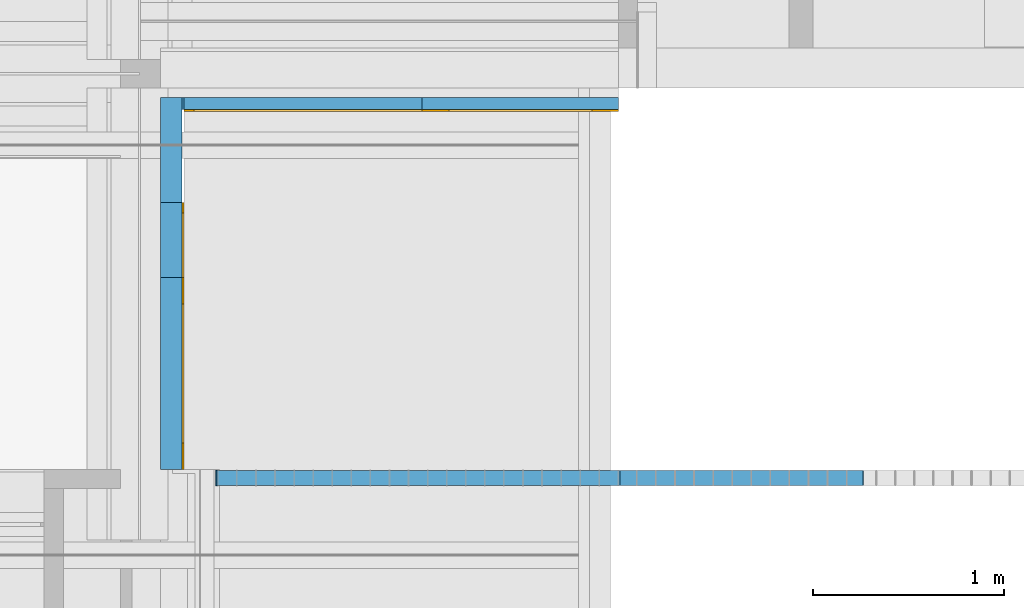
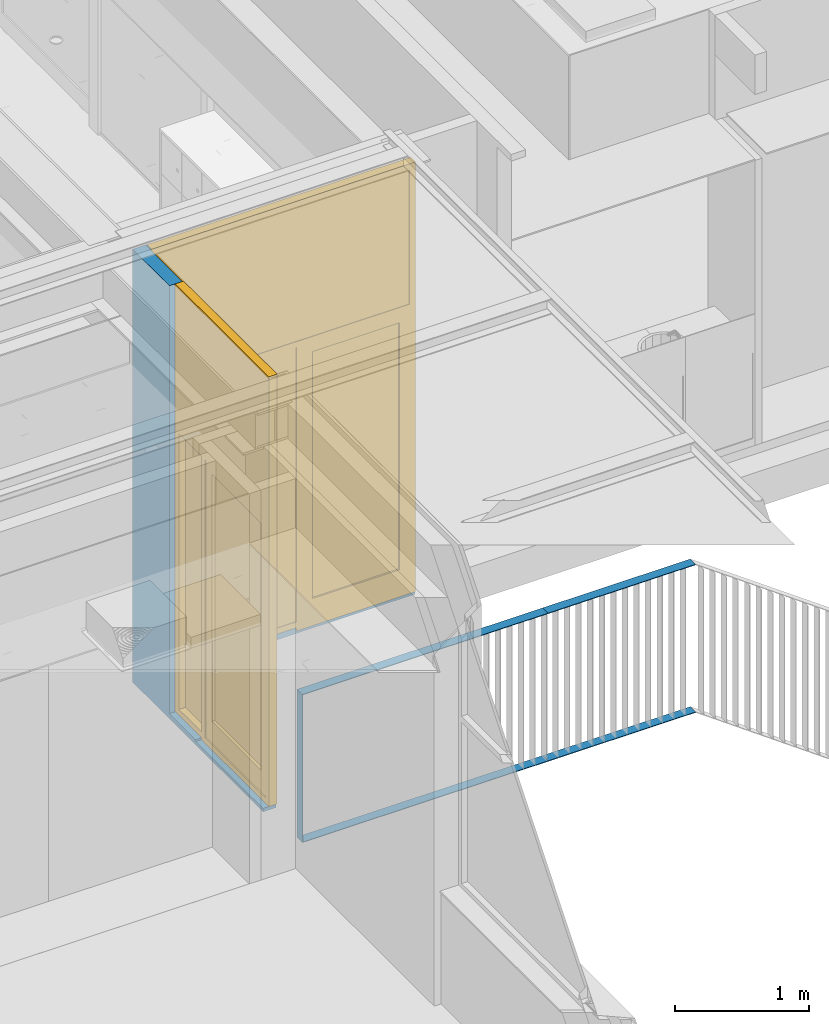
# One storey, part 16 of 260: 7 members, 2 doors, 2 openings, 1 element without a shape of its own.
"""IFC2X3 building model written with IfcOpenShell, lengths in millimetres."""

from ifc_helpers import new_model, entity, si_unit, converted_unit, derived_unit, money_unit, direction, frame, origin_with_axes, place, context, subcontext, project, spatial, open_shell, faceted_brep, surface_model, material, type_object, element, fill, aggregate, save


model = new_model("IFC2X3")

# Units and contexts
model_context = context("Model", 3, precision=0.01, world=origin_with_axes(), true_north=direction((0.0, 1.0)))
plan_context = context("Plan", 3, precision=0.01, world=origin_with_axes(), true_north=direction((0.0, 1.0)))
body_context = subcontext(model_context, "Body", "Model", "MODEL_VIEW")
ifc_project = project(units=[si_unit("LENGTHUNIT", "METRE", prefix="MILLI"), si_unit("AREAUNIT", "SQUARE_METRE"), si_unit("VOLUMEUNIT", "CUBIC_METRE"), converted_unit("PLANEANGLEUNIT", "DEGREE", entity("IfcPlaneAngleMeasure", 0.0174532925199), si_unit("PLANEANGLEUNIT", "RADIAN"), dimensions=[0, 0, 0, 0, 0, 0, 0]), money_unit("EUR"), converted_unit("TIMEUNIT", "Year", entity("IfcTimeMeasure", 31556926.0), si_unit("TIMEUNIT", "SECOND"), dimensions=[0, 0, 1, 0, 0, 0, 0]), si_unit("MASSUNIT", "GRAM", prefix="KILO"), si_unit("THERMODYNAMICTEMPERATUREUNIT", "DEGREE_CELSIUS"), si_unit("LUMINOUSINTENSITYUNIT", "LUMEN"), si_unit("ENERGYUNIT", "JOULE", prefix="MEGA"), derived_unit("THERMALCONDUCTANCEUNIT", [(si_unit("POWERUNIT", "WATT"), 1), (si_unit("LENGTHUNIT", "METRE"), -1), (si_unit("THERMODYNAMICTEMPERATUREUNIT", "KELVIN"), -1)]), derived_unit("SPECIFICHEATCAPACITYUNIT", [(si_unit("ENERGYUNIT", "JOULE"), 1), (si_unit("MASSUNIT", "GRAM", prefix="KILO"), -1), (si_unit("THERMODYNAMICTEMPERATUREUNIT", "KELVIN"), -1)]), derived_unit("MASSDENSITYUNIT", [(si_unit("MASSUNIT", "GRAM", prefix="KILO"), 1), (si_unit("VOLUMEUNIT", "CUBIC_METRE"), -1)])], contexts=[model_context, plan_context])

# Site, building, storey
site_placement = place(None, origin_with_axes())
site = spatial("IfcSite", under=ifc_project, at=site_placement, Name="Site", CompositionType="ELEMENT")
building_placement = place(site_placement, origin_with_axes())
building = spatial("IfcBuilding", under=site, at=building_placement, Name="Naam gebouw", CompositionType="ELEMENT")
storey_placement = place(building_placement, frame((0.0, 0.0, 3960.0), z_axis=(0.0, 0.0, 1.0), x_axis=(1.0, 0.0, 0.0)))
storey = spatial("IfcBuildingStorey", under=building, at=storey_placement, Name="verdieping", CompositionType="ELEMENT", Elevation=3960.0)

# Railing, members
railing_type = type_object("IfcRailingType", Name="Railing Type", PredefinedType="NOTDEFINED")
railing_placement = place(storey_placement, frame((45003.0750126, 9730.00004155, -3819.75532512), z_axis=(0.0, 0.0, 1.0), x_axis=(1.0, 0.0, 0.0)))
railing = element("IfcRailing", 1, at=railing_placement, inside=storey, type_object=railing_type, Name="_Reling-x", PredefinedType="NOTDEFINED")
ifc_material_1 = material(Name="Metaal - Aluminium")
member_type_1 = type_object("IfcMemberType", Name="IfcMember", PredefinedType="USERDEFINED")
member_1_placement = place(railing_placement, origin_with_axes())
member_1 = element("IfcMember", 2, at=member_1_placement, type_object=member_type_1, material=ifc_material_1, Name="_", context=body_context, shape_type="Brep", body=[
    faceted_brep([(-58.0749468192, 314.999958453, 4769.75532512), (-52.0749468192, 314.999958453, 4763.75532512), (-52.0749468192, 314.999958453, 3419.75532512), (-58.0749468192, 314.999958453, 3419.75532512), (-58.0749468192, 234.999958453, 4769.75532512), (-52.0749468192, 234.999958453, 4763.75532512), (-52.0749468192, 234.999958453, 3419.75532512), (-58.0749468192, 234.999958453, 3419.75532512)], [[[0, 1, 2, 3]], [[0, 4, 5, 1]], [[1, 5, 6, 2]], [[3, 2, 6, 7]], [[4, 0, 3, 7]], [[5, 4, 7, 6]]]),
])
member_2_placement = place(railing_placement, frame((1001.92502535, 274.999958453, 4729.30782829), z_axis=(0.0, 0.0, 1.0), x_axis=(1.0, 0.0, 0.0)))
member_2 = element("IfcMember", 3, at=member_2_placement, type_object=member_type_1, material=ifc_material_1, Name="_", context=body_context, shape_type="Brep", body=[
    faceted_brep([(-1059.99997217, -40.0, 40.4474968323), (-1053.99997217, -40.0, 34.4474968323), (1059.99997217, -40.0, 34.4474968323), (1059.99997217, -40.0, 40.4474968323), (-1059.99997217, 40.0, 40.4474968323), (-1053.99997217, 40.0, 34.4474968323), (1059.99997217, 40.0, 34.4474968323), (1059.99997217, 40.0, 40.4474968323)], [[[0, 1, 2, 3]], [[0, 4, 5, 1]], [[1, 5, 6, 2]], [[3, 2, 6, 7]], [[4, 0, 3, 7]], [[5, 4, 7, 6]]]),
])
ifc_material_2 = material(Name="Metaal - RVS")
member_3_placement = place(railing_placement, frame((1001.92502535, 274.999958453, 3379.64298288), z_axis=(0.0, 0.0, 1.0), x_axis=(1.0, 0.0, 0.0)))
member_3 = element("IfcMember", 4, at=member_3_placement, type_object=member_type_1, material=ifc_material_2, Name="_Regel-x", context=body_context, shape_type="Brep", body=[
    faceted_brep([(-1059.99997217, -40.0, 43.1123422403), (-1059.99997217, -40.0, 37.1123422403), (1059.99997217, -40.0, 37.1123422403), (1059.99997217, -40.0, 43.1123422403), (-1059.99997217, 40.0, 43.1123422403), (-1059.99997217, 40.0, 37.1123422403), (1059.99997217, 40.0, 37.1123422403), (1059.99997217, 40.0, 43.1123422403)], [[[0, 1, 2, 3]], [[0, 4, 5, 1]], [[1, 5, 6, 2]], [[3, 2, 6, 7]], [[4, 0, 3, 7]], [[5, 4, 7, 6]]]),
])
member_4_placement = place(railing_placement, frame((2699.03930402, 274.999958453, 4729.30782829), z_axis=(0.0, 0.0, 1.0), x_axis=(1.0, 0.0, 0.0)))
member_4 = element("IfcMember", 5, at=member_4_placement, type_object=member_type_1, material=ifc_material_1, Name="_", context=body_context, shape_type="Brep", body=[
    faceted_brep([(-637.114306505, -40.0, 40.4474968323), (-637.114306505, -40.0, 34.4474968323), (635.179025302, -39.9999999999, 34.4474968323), (637.114306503, -40.0, 40.4474968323), (-637.114306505, 40.0, 40.4474968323), (-637.114306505, 40.0, 34.4474968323), (635.179025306, 40.0000000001, 34.4474968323), (637.114306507, 40.0, 40.4474968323)], [[[0, 1, 2, 3]], [[0, 4, 5, 1]], [[1, 5, 6, 2]], [[3, 2, 6, 7]], [[4, 0, 3, 7]], [[5, 4, 7, 6]]]),
])
member_5_placement = place(railing_placement, frame((2699.03930402, 274.999958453, 3379.64298288), z_axis=(0.0, 0.0, 1.0), x_axis=(1.0, 0.0, 0.0)))
member_5 = element("IfcMember", 6, at=member_5_placement, type_object=member_type_1, material=ifc_material_2, Name="_Regel-x", context=body_context, shape_type="Brep", body=[
    faceted_brep([(-637.114306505, -40.0, 43.1123422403), (-637.114306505, -40.0, 37.1123422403), (636.146665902, -39.9999999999, 37.1123422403), (638.081947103, -40.0000000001, 43.1123422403), (-637.114306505, 40.0, 43.1123422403), (-637.114306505, 40.0, 37.1123422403), (636.146665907, 40.0000000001, 37.1123422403), (638.081947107, 39.9999999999, 43.1123422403)], [[[0, 1, 2, 3]], [[0, 4, 5, 1]], [[1, 5, 6, 2]], [[3, 2, 6, 7]], [[4, 0, 3, 7]], [[5, 4, 7, 6]]]),
])
aggregate(railing, [member_1, member_2, member_3, member_4, member_5])

# Member, opening, door
ifc_material_3 = material(Name="31 pui/kozijn")
member_type_2 = type_object("IfcMemberType", Name="31 pui/kozijn 62", PredefinedType="MEMBER")
member_6_placement = place(storey_placement, frame((47055.0, 12000.0000337, -70.0), z_axis=(0.0, 0.0, 1.0), x_axis=(-1.0, 0.0, 0.0)))
member_6 = element("IfcMember", 7, at=member_6_placement, inside=storey, type_object=member_type_2, material=ifc_material_3, Name="21_31 buitenkozijn pui", ObjectType="MEMBER", context=body_context, shape_type="Brep", body=[
    faceted_brep([(1028.0, 0.0, 60.0), (1028.0, 0.0, 30.0), (0.0, 0.0, 30.0), (0.0, 0.0, 0.0), (2288.00003646, 0.0, 0.0), (2288.00003646, 0.0, 3950.0), (2278.00001134, 0.0, 3950.0), (2278.00001134, 0.0, 60.0), (1028.0, 62.0, 60.0), (1028.0, 62.0, 30.0), (0.0, 62.0, 30.0), (0.0, 62.0, 0.0), (2288.00001134, 62.0, 0.0), (2288.00001134, 62.0, 3950.0), (2278.00001134, 62.0, 3950.0), (2278.00001134, 62.0, 60.0)], [[[0, 1, 2, 3, 4, 5, 6, 7]], [[1, 0, 8, 9]], [[10, 2, 1, 9]], [[2, 10, 11, 3]], [[4, 3, 11, 12]], [[12, 13, 5, 4]], [[14, 6, 5, 13]], [[7, 6, 14, 15]], [[0, 7, 15, 8]], [[15, 14, 13, 12, 11, 10, 9, 8]]]),
])
opening_1_placement = place(member_6_placement, frame((1139.00000567, 0.0, 30.0), z_axis=(0.0, 0.0, 1.0), x_axis=(1.0, 0.0, 0.0)))
opening_1 = element("IfcOpeningElement", 8, at=opening_1_placement, cuts=member_6, Name="32_merk-BN", context=body_context, shape_type="Brep", body=[
    faceted_brep([(-1139.00000567, -62.0, 0.0), (-1139.00000567, -62.0, 3920.0), (-1139.00000567, 134.0, 3920.0), (-1139.00000567, 134.0, 0.0), (-111.000029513, -62.0, 0.0), (-111.000029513, -62.0, 30.0000143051), (1138.99998241, -62.0, 30.0000143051), (1138.99998241, -62.0, 3920.0), (1138.99998241, 134.0, 3920.0), (1138.99998241, 134.0, 30.0000143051), (-111.000029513, 134.0, 30.0000143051), (-111.000029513, 134.0, 0.0)], [[[0, 1, 2, 3]], [[0, 4, 5, 6, 7, 1]], [[1, 7, 8, 2]], [[3, 2, 8, 9, 10, 11]], [[4, 0, 3, 11]], [[5, 4, 11, 10]], [[6, 5, 10, 9]], [[7, 6, 9, 8]]]),
])
door_style_1 = type_object("IfcDoorStyle", Name="D1 bl zl1-a 25", ConstructionType="NOTDEFINED", OperationType="SINGLE_SWING_RIGHT", ParameterTakesPrecedence=False, Sizeable=False)
door_1_placement = place(opening_1_placement, frame((-1139.00000567, 0.0, 0.0), z_axis=(0.0, 0.0, 1.0), x_axis=(1.0, 0.0, 0.0)))
door_1 = element("IfcDoor", 9, at=door_1_placement, inside=storey, type_object=door_style_1, Name="32_merk-BN", ObjectType="DOOR", OverallHeight=3920.0, OverallWidth=2278.0, context=body_context, shape_type="SurfaceModel", body=[
    faceted_brep([(39.0, 32.0, 48.0), (54.0, 32.0, 48.0), (54.0, 0.0, 48.0), (974.0, 0.0, 48.0), (974.0, 32.0, 48.0), (989.0, 32.0, 48.0), (989.0, 72.0, 48.0), (39.0, 72.0, 48.0), (39.0, 32.0, 0.0), (54.0, 32.0, 0.0), (54.0, 0.0, 0.0), (974.0, 0.0, 0.0), (974.0, 32.0, 0.0), (989.0, 32.0, 0.0), (989.0, 72.0, 0.0), (39.0, 72.0, 0.0)], [[[0, 1, 2, 3, 4, 5, 6, 7]], [[1, 0, 8, 9]], [[10, 2, 1, 9]], [[2, 10, 11, 3]], [[3, 11, 12, 4]], [[5, 4, 12, 13]], [[13, 14, 6, 5]], [[15, 7, 6, 14]], [[8, 0, 7, 15]], [[9, 8, 15, 14, 13, 12, 11, 10]]]),
    faceted_brep([(54.0, 32.0, 2601.0), (54.0, 72.0, 2601.0), (54.0, 72.0, 2640.0), (54.0, 0.0, 2640.0), (54.0, 0.0, 2586.0), (54.0, 0.0, 0.0), (54.0, 32.0, 0.0), (39.0, 32.0, 2601.0), (39.0, 72.0, 2601.0), (39.0, 72.0, 0.0), (0.0, 72.0, 0.0), (0.0, 72.0, 3866.0), (54.0, 72.0, 3866.0), (54.0, 0.0, 3866.0), (0.0, 0.0, 3866.0), (0.0, 0.0, 0.0), (39.0, 32.0, 0.0)], [[[0, 1, 2, 3, 4, 5, 6]], [[1, 0, 7, 8]], [[8, 9, 10, 11, 12, 2, 1]], [[12, 13, 3, 2]], [[3, 13, 14, 15, 5, 4]], [[16, 6, 5, 15, 10, 9]], [[0, 6, 16, 7]], [[9, 8, 7, 16]], [[10, 15, 14, 11]], [[11, 14, 13, 12]]]),
    faceted_brep([(2278.00001134, 72.0, 30.0), (2278.00001134, 72.0, 3866.0), (2278.00001134, 0.0, 3866.0), (2278.00001134, 0.0, 30.0), (2224.00001134, 72.0, 30.0), (2224.00001134, 72.0, 84.0), (2224.00001134, 72.0, 2586.0), (2224.00001134, 72.0, 2640.0), (2224.00001134, 72.0, 3866.0), (2224.00001134, 0.0, 3866.0), (2224.00001134, 0.0, 2640.0), (2224.00001134, 0.0, 2586.0), (2224.00001134, 0.0, 84.0), (2224.00001134, 0.0, 30.0)], [[[0, 1, 2, 3]], [[0, 4, 5, 6, 7, 8, 1]], [[1, 8, 9, 2]], [[3, 2, 9, 10, 11, 12, 13]], [[4, 0, 3, 13]], [[5, 4, 13, 12]], [[6, 5, 12, 11]], [[7, 6, 11, 10]], [[8, 7, 10, 9]]]),
    faceted_brep([(989.0, 32.0, 2586.0), (974.0, 32.0, 2586.0), (974.0, 0.0, 2586.0), (1028.0, 0.0, 2586.0), (1028.0, 72.0, 2586.0), (989.0, 72.0, 2586.0), (989.0, 32.0, 0.0), (974.0, 32.0, 0.0), (974.0, 0.0, 0.0), (1028.0, 0.0, 0.0), (1028.0, 0.0, 30.0), (1028.0, 0.0, 84.0), (1028.0, 72.0, 84.0), (989.0, 72.0, 0.0), (1028.0, 72.0, 30.0), (1028.0, 72.0, 0.0)], [[[0, 1, 2, 3, 4, 5]], [[1, 0, 6, 7]], [[1, 7, 8, 2]], [[9, 10, 11, 3, 2, 8]], [[4, 3, 11, 12]], [[13, 5, 4, 12, 14, 15]], [[0, 5, 13, 6]], [[6, 13, 15, 9, 8, 7]], [[14, 10, 9, 15]], [[12, 11, 10, 14]]]),
    faceted_brep([(1028.0, 72.0, 84.0), (1028.0, 72.0, 30.0), (1028.0, 0.0, 30.0), (1028.0, 0.0, 84.0), (2224.00001134, 72.0, 84.0), (2224.00001134, 72.0, 30.0), (2224.00001134, 0.0, 30.0), (2224.00001134, 0.0, 84.0)], [[[0, 1, 2, 3]], [[0, 4, 5, 1]], [[1, 5, 6, 2]], [[3, 2, 6, 7]], [[4, 0, 3, 7]], [[5, 4, 7, 6]]]),
    faceted_brep([(0.0, 72.0, 3920.0), (0.0, 72.0, 3866.0), (0.0, 0.0, 3866.0), (0.0, 0.0, 3920.0), (2278.00001134, 72.0, 3920.0), (2278.00001134, 72.0, 3866.0), (2224.00001134, 72.0, 3866.0), (54.0, 72.0, 3866.0), (54.0, 0.0, 3866.0), (2224.00001134, 0.0, 3866.0), (2278.00001134, 0.0, 3866.0), (2278.00001134, 0.0, 3920.0)], [[[0, 1, 2, 3]], [[0, 4, 5, 6, 7, 1]], [[1, 7, 8, 2]], [[3, 2, 8, 9, 10, 11]], [[4, 0, 3, 11]], [[5, 4, 11, 10]], [[6, 5, 10, 9]], [[7, 6, 9, 8]]]),
    faceted_brep([(989.0, 72.0, 2601.0), (54.0, 72.0, 2601.0), (54.0, 72.0, 2640.0), (2224.00001134, 72.0, 2640.0), (2224.00001134, 72.0, 2586.0), (1028.0, 72.0, 2586.0), (989.0, 72.0, 2586.0), (989.0, 32.0, 2601.0), (54.0, 32.0, 2601.0), (54.0, 32.0, 2586.0), (54.0, 0.0, 2586.0), (54.0, 0.0, 2640.0), (2224.00001134, 0.0, 2640.0), (2224.00001134, 0.0, 2586.0), (1028.0, 0.0, 2586.0), (989.0, 32.0, 2586.0), (974.0, 0.0, 2586.0), (974.0, 32.0, 2586.0)], [[[0, 1, 2, 3, 4, 5, 6]], [[1, 0, 7, 8]], [[8, 9, 10, 11, 2, 1]], [[2, 11, 12, 3]], [[3, 12, 13, 4]], [[4, 13, 14, 5]], [[15, 6, 5, 14, 16, 17]], [[0, 6, 15, 7]], [[15, 17, 9, 8, 7]], [[9, 17, 16, 10]], [[13, 12, 11, 10, 16, 14]]]),
    faceted_brep([(989.0, 72.0, 248.0), (989.0, 52.0, 248.0), (889.0, 52.0, 248.0), (889.0, 72.0, 248.0), (989.0, 72.0, 2501.0), (989.0, 52.0, 2501.0), (889.0, 52.0, 2501.0), (889.0, 72.0, 2501.0)], [[[0, 1, 2, 3]], [[4, 5, 1, 0]], [[1, 5, 6, 2]], [[3, 2, 6, 7]], [[0, 3, 7, 4]], [[7, 6, 5, 4]]]),
    faceted_brep([(39.0, 72.0, 248.0), (39.0, 52.0, 248.0), (39.0, 52.0, 2501.0), (39.0, 72.0, 2501.0), (139.0, 72.0, 248.0), (139.0, 52.0, 248.0), (139.0, 52.0, 2501.0), (139.0, 72.0, 2501.0)], [[[0, 1, 2, 3]], [[4, 5, 1, 0]], [[1, 5, 6, 2]], [[3, 2, 6, 7]], [[0, 3, 7, 4]], [[7, 6, 5, 4]]]),
    faceted_brep([(989.0, 72.0, 48.0), (989.0, 52.0, 48.0), (39.0, 52.0, 48.0), (39.0, 72.0, 48.0), (989.0, 72.0, 248.0), (989.0, 52.0, 248.0), (889.0, 52.0, 248.0), (139.0, 52.0, 248.0), (39.0, 52.0, 248.0), (39.0, 72.0, 248.0), (139.0, 72.0, 248.0), (889.0, 72.0, 248.0)], [[[0, 1, 2, 3]], [[4, 5, 1, 0]], [[1, 5, 6, 7, 8, 2]], [[3, 2, 8, 9]], [[0, 3, 9, 10, 11, 4]], [[11, 6, 5, 4]], [[10, 7, 6, 11]], [[9, 8, 7, 10]]]),
    faceted_brep([(989.0, 72.0, 2601.0), (989.0, 52.0, 2601.0), (989.0, 52.0, 2501.0), (989.0, 72.0, 2501.0), (39.0, 72.0, 2601.0), (39.0, 52.0, 2601.0), (39.0, 52.0, 2501.0), (139.0, 52.0, 2501.0), (889.0, 52.0, 2501.0), (889.0, 72.0, 2501.0), (139.0, 72.0, 2501.0), (39.0, 72.0, 2501.0)], [[[0, 1, 2, 3]], [[4, 5, 1, 0]], [[1, 5, 6, 7, 8, 2]], [[3, 2, 8, 9]], [[0, 3, 9, 10, 11, 4]], [[11, 6, 5, 4]], [[10, 7, 6, 11]], [[9, 8, 7, 10]]]),
    faceted_brep([(989.0, 52.0, 248.0), (989.0, 32.0, 248.0), (889.0, 32.0, 248.0), (889.0, 52.0, 248.0), (989.0, 52.0, 2501.0), (989.0, 32.0, 2501.0), (889.0, 32.0, 2501.0), (889.0, 52.0, 2501.0)], [[[0, 1, 2, 3]], [[4, 5, 1, 0]], [[1, 5, 6, 2]], [[3, 2, 6, 7]], [[0, 3, 7, 4]], [[7, 6, 5, 4]]]),
    faceted_brep([(39.0, 52.0, 248.0), (39.0, 32.0, 248.0), (39.0, 32.0, 2501.0), (39.0, 52.0, 2501.0), (139.0, 52.0, 248.0), (139.0, 32.0, 248.0), (139.0, 32.0, 2501.0), (139.0, 52.0, 2501.0)], [[[0, 1, 2, 3]], [[4, 5, 1, 0]], [[1, 5, 6, 2]], [[3, 2, 6, 7]], [[0, 3, 7, 4]], [[7, 6, 5, 4]]]),
    faceted_brep([(989.0, 52.0, 48.0), (989.0, 32.0, 48.0), (39.0, 32.0, 48.0), (39.0, 52.0, 48.0), (989.0, 52.0, 248.0), (989.0, 32.0, 248.0), (889.0, 32.0, 248.0), (139.0, 32.0, 248.0), (39.0, 32.0, 248.0), (39.0, 52.0, 248.0), (139.0, 52.0, 248.0), (889.0, 52.0, 248.0)], [[[0, 1, 2, 3]], [[4, 5, 1, 0]], [[1, 5, 6, 7, 8, 2]], [[3, 2, 8, 9]], [[0, 3, 9, 10, 11, 4]], [[11, 6, 5, 4]], [[10, 7, 6, 11]], [[9, 8, 7, 10]]]),
    faceted_brep([(989.0, 52.0, 2601.0), (989.0, 32.0, 2601.0), (989.0, 32.0, 2501.0), (989.0, 52.0, 2501.0), (39.0, 52.0, 2601.0), (39.0, 32.0, 2601.0), (39.0, 32.0, 2501.0), (139.0, 32.0, 2501.0), (889.0, 32.0, 2501.0), (889.0, 52.0, 2501.0), (139.0, 52.0, 2501.0), (39.0, 52.0, 2501.0)], [[[0, 1, 2, 3]], [[4, 5, 1, 0]], [[1, 5, 6, 7, 8, 2]], [[3, 2, 8, 9]], [[0, 3, 9, 10, 11, 4]], [[11, 6, 5, 4]], [[10, 7, 6, 11]], [[9, 8, 7, 10]]]),
    surface_model("IfcShellBasedSurfaceModel", [(889.0, 58.0, 248.0), (139.0, 58.0, 248.0), (139.0, 58.0, 2501.0), (889.0, 58.0, 2501.0)], [open_shell([[[0, 1, 2, 3]]])]),
    surface_model("IfcShellBasedSurfaceModel", [(889.0, 46.0, 248.0), (889.0, 46.0, 2501.0), (139.0, 46.0, 2501.0), (139.0, 46.0, 248.0)], [open_shell([[[0, 1, 2, 3]]])]),
    surface_model("IfcShellBasedSurfaceModel", [(54.0, 68.0, 2640.0), (54.0, 68.0, 3866.0), (2224.00001134, 68.0, 3866.0), (2224.00001134, 68.0, 2640.0)], [open_shell([[[0, 1, 2, 3]]])]),
    surface_model("IfcShellBasedSurfaceModel", [(54.0, 56.0, 2640.0), (2224.00001134, 56.0, 2640.0), (2224.00001134, 56.0, 3866.0), (54.0, 56.0, 3866.0)], [open_shell([[[0, 1, 2, 3]]])]),
    surface_model("IfcShellBasedSurfaceModel", [(1028.0, 68.0, 84.0), (1028.0, 68.0, 2586.0), (2224.00001134, 68.0, 2586.0), (2224.00001134, 68.0, 84.0)], [open_shell([[[0, 1, 2, 3]]])]),
    surface_model("IfcShellBasedSurfaceModel", [(1028.0, 56.0, 84.0), (2224.00001134, 56.0, 84.0), (2224.00001134, 56.0, 2586.0), (1028.0, 56.0, 2586.0)], [open_shell([[[0, 1, 2, 3]]])]),
])
fill(opening_1, door_1)

member_type_3 = type_object("IfcMemberType", Name="31 pui/kozijn 112", PredefinedType="MEMBER")
member_7_placement = place(storey_placement, frame((44654.9999635, 12000.0000337, -70.0), z_axis=(0.0, 0.0, 1.0), x_axis=(4.05061524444e-07, -1.0, 0.0)))
member_7 = element("IfcMember", 10, at=member_7_placement, inside=storey, type_object=member_type_3, material=ifc_material_3, Name="21_31 buitenkozijn pui", ObjectType="MEMBER", context=body_context, shape_type="Brep", body=[
    faceted_brep([(550.000033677, 0.0, 3950.0), (550.000033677, 112.0, 3950.0), (4.53668906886e-05, 112.0, 3950.0), (0.0, 0.0, 3950.0), (550.000033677, 112.0, 47.0), (550.000033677, 0.0, 47.0), (942.000033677, 112.0, 30.0), (1950.00003368, 112.0, 30.0), (1950.00003368, 112.0, 0.0), (4.53668906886e-05, 112.0, 0.0), (942.000033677, 112.0, 47.0), (0.0, 0.0, 0.0), (1950.00003368, 0.0, 0.0), (1950.00003368, 0.0, 30.0), (942.000033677, 0.0, 30.0), (942.000033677, 0.0, 47.0)], [[[0, 1, 2, 3]], [[4, 1, 0, 5]], [[6, 7, 8, 9, 2, 1, 4, 10]], [[9, 11, 3, 2]], [[5, 0, 3, 11, 12, 13, 14, 15]], [[10, 4, 5, 15]], [[7, 6, 14, 13]], [[7, 13, 12, 8]], [[8, 12, 11, 9]], [[6, 10, 15, 14]]]),
])
opening_2_placement = place(member_7_placement, frame((1250.00003368, 0.0, 30.0), z_axis=(0.0, 0.0, 1.0), x_axis=(1.0, 0.0, 0.0)))
opening_2 = element("IfcOpeningElement", 11, at=opening_2_placement, cuts=member_7, Name="32_merk-BO", context=body_context, shape_type="Brep", body=[
    faceted_brep([(-700.0, -112.0, 16.9999964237), (-700.0, -112.0, 3920.0), (-700.0, 234.0, 3920.0), (-700.0, 234.0, 16.9999964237), (-308.0, -112.0, 16.9999964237), (-308.0, -112.0, 0.0), (700.000025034, -112.0, 0.0), (700.000025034, -112.0, 3920.0), (700.000025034, 234.0, 3920.0), (700.000025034, 234.0, 0.0), (-308.0, 234.0, 0.0), (-308.0, 234.0, 16.9999964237)], [[[0, 1, 2, 3]], [[0, 4, 5, 6, 7, 1]], [[1, 7, 8, 2]], [[3, 2, 8, 9, 10, 11]], [[4, 0, 3, 11]], [[5, 4, 11, 10]], [[6, 5, 10, 9]], [[7, 6, 9, 8]]]),
])
door_style_2 = type_object("IfcDoorStyle", Name="D1 bl zl1-b 25", ConstructionType="NOTDEFINED", OperationType="SINGLE_SWING_RIGHT", ParameterTakesPrecedence=False, Sizeable=False)
door_2_placement = place(opening_2_placement, frame((-700.0, 0.0, 0.0), z_axis=(0.0, 0.0, 1.0), x_axis=(1.0, 0.0, 0.0)))
door_2 = element("IfcDoor", 12, at=door_2_placement, inside=storey, type_object=door_style_2, Name="32_merk-BO", ObjectType="DOOR", OverallHeight=3920.0, OverallWidth=1400.0, context=body_context, shape_type="SurfaceModel", body=[
    faceted_brep([(431.0, 60.0, 48.0), (446.0, 60.0, 48.0), (446.0, 50.0, 48.0), (1346.0, 50.0, 48.0), (1346.0, 60.0, 48.0), (1361.0, 60.0, 48.0), (1361.0, 122.0, 48.0), (431.0, 122.0, 48.0), (431.0, 60.0, 0.0), (446.0, 60.0, 0.0), (446.0, 50.0, 0.0), (1346.0, 50.0, 0.0), (1346.0, 60.0, 0.0), (1361.0, 60.0, 0.0), (1361.0, 122.0, 0.0), (431.0, 122.0, 0.0)], [[[0, 1, 2, 3, 4, 5, 6, 7]], [[1, 0, 8, 9]], [[10, 2, 1, 9]], [[2, 10, 11, 3]], [[3, 11, 12, 4]], [[5, 4, 12, 13]], [[13, 14, 6, 5]], [[15, 7, 6, 14]], [[8, 0, 7, 15]], [[9, 8, 15, 14, 13, 12, 11, 10]]]),
    faceted_brep([(0.0, 122.0, 17.0), (54.0, 122.0, 17.0), (54.0, 50.0, 17.0), (0.0, 50.0, 17.0), (0.0, 122.0, 3866.0), (54.0, 122.0, 3866.0), (54.0, 122.0, 2640.0), (54.0, 122.0, 2586.0), (54.0, 122.0, 71.0), (54.0, 50.0, 71.0), (54.0, 50.0, 2586.0), (54.0, 50.0, 2640.0), (54.0, 50.0, 3866.0), (0.0, 50.0, 3866.0)], [[[0, 1, 2, 3]], [[0, 4, 5, 6, 7, 8, 1]], [[1, 8, 9, 2]], [[3, 2, 9, 10, 11, 12, 13]], [[4, 0, 3, 13]], [[5, 4, 13, 12]], [[6, 5, 12, 11]], [[7, 6, 11, 10]], [[8, 7, 10, 9]]]),
    faceted_brep([(446.0, 60.0, 0.0), (446.0, 60.0, 2586.0), (446.0, 50.0, 2586.0), (446.0, 50.0, 0.0), (431.0, 60.0, 2586.0), (431.0, 60.0, 0.0), (431.0, 122.0, 2586.0), (392.0, 122.0, 2586.0), (392.0, 50.0, 2586.0), (392.0, 50.0, 0.0), (392.0, 50.0, 71.0), (392.0, 50.0, 17.0), (392.0, 122.0, 0.0), (431.0, 122.0, 0.0), (392.0, 122.0, 17.0), (392.0, 122.0, 71.0)], [[[0, 1, 2, 3]], [[4, 1, 0, 5]], [[4, 6, 7, 8, 2, 1]], [[9, 3, 2, 8, 10, 11]], [[5, 0, 3, 9, 12, 13]], [[6, 4, 5, 13]], [[6, 13, 12, 14, 15, 7]], [[15, 10, 8, 7]], [[14, 11, 10, 15]], [[12, 9, 11, 14]]]),
    faceted_brep([(54.0, 122.0, 71.0), (54.0, 122.0, 17.0), (54.0, 50.0, 17.0), (54.0, 50.0, 71.0), (392.0, 122.0, 71.0), (392.0, 122.0, 17.0), (392.0, 50.0, 17.0), (392.0, 50.0, 71.0)], [[[0, 1, 2, 3]], [[0, 4, 5, 1]], [[1, 5, 6, 2]], [[3, 2, 6, 7]], [[4, 0, 3, 7]], [[5, 4, 7, 6]]]),
    faceted_brep([(1361.0, 122.0, 2601.0), (1346.0, 122.0, 2601.0), (1346.0, 122.0, 2640.0), (1346.0, 122.0, 3866.0), (1400.0, 122.0, 3866.0), (1400.0, 122.0, 0.0), (1361.0, 122.0, 0.0), (1361.0, 60.0, 2601.0), (1346.0, 60.0, 2601.0), (1346.0, 60.0, 0.0), (1346.0, 50.0, 0.0), (1346.0, 50.0, 2586.0), (1346.0, 50.0, 2640.0), (1346.0, 50.0, 3866.0), (1400.0, 50.0, 3866.0), (1400.0, 50.0, 0.0), (1361.0, 60.0, 0.0)], [[[0, 1, 2, 3, 4, 5, 6]], [[1, 0, 7, 8]], [[8, 9, 10, 11, 12, 2, 1]], [[2, 12, 13, 3]], [[3, 13, 14, 4]], [[4, 14, 15, 5]], [[16, 6, 5, 15, 10, 9]], [[0, 6, 16, 7]], [[16, 9, 8, 7]], [[12, 11, 10, 15, 14, 13]]]),
    faceted_brep([(0.0, 122.0, 3920.0), (0.0, 122.0, 3866.0), (0.0, 50.0, 3866.0), (0.0, 50.0, 3920.0), (1400.0, 122.0, 3920.0), (1400.0, 122.0, 3866.0), (1346.0, 122.0, 3866.0), (54.0, 122.0, 3866.0), (54.0, 50.0, 3866.0), (1346.0, 50.0, 3866.0), (1400.0, 50.0, 3866.0), (1400.0, 50.0, 3920.0)], [[[0, 1, 2, 3]], [[0, 4, 5, 6, 7, 1]], [[1, 7, 8, 2]], [[3, 2, 8, 9, 10, 11]], [[4, 0, 3, 11]], [[5, 4, 11, 10]], [[6, 5, 10, 9]], [[7, 6, 9, 8]]]),
    faceted_brep([(1346.0, 60.0, 2601.0), (1346.0, 122.0, 2601.0), (1346.0, 122.0, 2640.0), (1346.0, 50.0, 2640.0), (1346.0, 50.0, 2586.0), (1346.0, 60.0, 2586.0), (431.0, 60.0, 2601.0), (431.0, 122.0, 2601.0), (431.0, 122.0, 2586.0), (392.0, 122.0, 2586.0), (54.0, 122.0, 2586.0), (54.0, 122.0, 2640.0), (54.0, 50.0, 2640.0), (446.0, 50.0, 2586.0), (54.0, 50.0, 2586.0), (392.0, 50.0, 2586.0), (446.0, 60.0, 2586.0), (431.0, 60.0, 2586.0)], [[[0, 1, 2, 3, 4, 5]], [[1, 0, 6, 7]], [[7, 8, 9, 10, 11, 2, 1]], [[11, 12, 3, 2]], [[13, 4, 3, 12, 14, 15]], [[16, 5, 4, 13]], [[0, 5, 16, 17, 6]], [[8, 7, 6, 17]], [[17, 16, 13, 15, 9, 8]], [[9, 15, 14, 10]], [[10, 14, 12, 11]]]),
    faceted_brep([(1361.0, 122.0, 248.0), (1361.0, 60.0, 248.0), (1261.0, 60.0, 248.0), (1261.0, 122.0, 248.0), (1361.0, 122.0, 2501.0), (1361.0, 60.0, 2501.0), (1261.0, 60.0, 2501.0), (1261.0, 122.0, 2501.0)], [[[0, 1, 2, 3]], [[4, 5, 1, 0]], [[1, 5, 6, 2]], [[3, 2, 6, 7]], [[0, 3, 7, 4]], [[7, 6, 5, 4]]]),
    faceted_brep([(431.0, 122.0, 248.0), (431.0, 60.0, 248.0), (431.0, 60.0, 2501.0), (431.0, 122.0, 2501.0), (531.0, 122.0, 248.0), (531.0, 60.0, 248.0), (531.0, 60.0, 2501.0), (531.0, 122.0, 2501.0)], [[[0, 1, 2, 3]], [[4, 5, 1, 0]], [[1, 5, 6, 2]], [[3, 2, 6, 7]], [[0, 3, 7, 4]], [[7, 6, 5, 4]]]),
    faceted_brep([(1361.0, 122.0, 48.0), (1361.0, 60.0, 48.0), (431.0, 60.0, 48.0), (431.0, 122.0, 48.0), (1361.0, 122.0, 248.0), (1361.0, 60.0, 248.0), (1261.0, 60.0, 248.0), (531.0, 60.0, 248.0), (431.0, 60.0, 248.0), (431.0, 122.0, 248.0), (531.0, 122.0, 248.0), (1261.0, 122.0, 248.0)], [[[0, 1, 2, 3]], [[4, 5, 1, 0]], [[1, 5, 6, 7, 8, 2]], [[3, 2, 8, 9]], [[0, 3, 9, 10, 11, 4]], [[11, 6, 5, 4]], [[10, 7, 6, 11]], [[9, 8, 7, 10]]]),
    faceted_brep([(1361.0, 122.0, 2601.0), (1361.0, 60.0, 2601.0), (1361.0, 60.0, 2501.0), (1361.0, 122.0, 2501.0), (431.0, 122.0, 2601.0), (431.0, 60.0, 2601.0), (431.0, 60.0, 2501.0), (531.0, 60.0, 2501.0), (1261.0, 60.0, 2501.0), (1261.0, 122.0, 2501.0), (531.0, 122.0, 2501.0), (431.0, 122.0, 2501.0)], [[[0, 1, 2, 3]], [[4, 5, 1, 0]], [[1, 5, 6, 7, 8, 2]], [[3, 2, 8, 9]], [[0, 3, 9, 10, 11, 4]], [[11, 6, 5, 4]], [[10, 7, 6, 11]], [[9, 8, 7, 10]]]),
    surface_model("IfcShellBasedSurfaceModel", [(1261.0, 97.0, 248.0), (531.0, 97.0, 248.0), (531.0, 97.0, 2501.0), (1261.0, 97.0, 2501.0)], [open_shell([[[0, 1, 2, 3]]])]),
    surface_model("IfcShellBasedSurfaceModel", [(1261.0, 85.0, 248.0), (1261.0, 85.0, 2501.0), (531.0, 85.0, 2501.0), (531.0, 85.0, 248.0)], [open_shell([[[0, 1, 2, 3]]])]),
    faceted_brep([(54.0, 104.0, 2640.0), (1346.0, 104.0, 2640.0), (1346.0, 50.0, 2640.0), (54.0, 50.0, 2640.0), (54.0, 104.0, 3866.0), (1346.0, 104.0, 3866.0), (1346.0, 50.0, 3866.0), (54.0, 50.0, 3866.0)], [[[0, 1, 2, 3]], [[0, 4, 5, 1]], [[1, 5, 6, 2]], [[3, 2, 6, 7]], [[4, 0, 3, 7]], [[5, 4, 7, 6]]]),
    surface_model("IfcShellBasedSurfaceModel", [(54.0, 118.0, 71.0), (54.0, 118.0, 2586.0), (392.0, 118.0, 2586.0), (392.0, 118.0, 71.0)], [open_shell([[[0, 1, 2, 3]]])]),
    surface_model("IfcShellBasedSurfaceModel", [(54.0, 106.0, 71.0), (392.0, 106.0, 71.0), (392.0, 106.0, 2586.0), (54.0, 106.0, 2586.0)], [open_shell([[[0, 1, 2, 3]]])]),
])
fill(opening_2, door_2)

save(model, "model.ifc")
